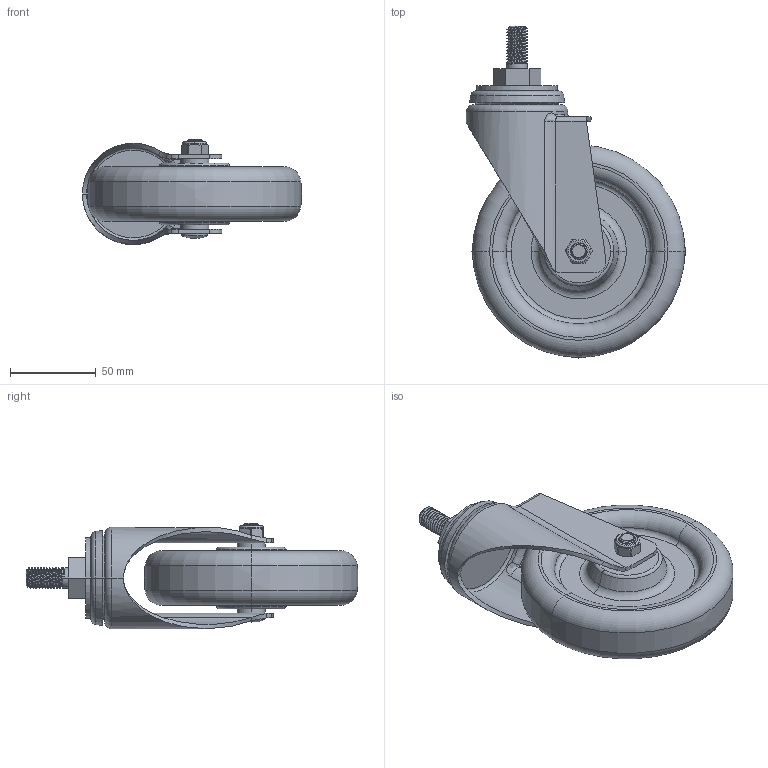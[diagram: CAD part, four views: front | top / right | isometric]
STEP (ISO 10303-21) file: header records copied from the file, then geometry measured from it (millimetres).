
FILE_DESCRIPTION((''),'2;1');
FILE_NAME('50135-505-86_ASM','2020-01-01T',('L'),(''),'PRO/ENGINEER BY PARAMETRIC TECHNOLOGY CORPORATION, 2010280','PRO/ENGINEER BY PARAMETRIC TECHNOLOGY CORPORATION, 2010280','');
FILE_SCHEMA(('CONFIG_CONTROL_DESIGN'));
Length unit declared in the file: millimetre
Products named in the file (5): 50135; 505-986; 570-33; 570-34; 50135-505-86_ASM
Assembly tree (4 placements, depth 2):
  50135-505-86_ASM
    50135
    505-986
    570-33
    570-34
Bounding box: 128.1 x 194.15 x 61.65 mm (x, y, z)
Volume: 361912.1 mm3; surface area: 75313.4 mm2
Topology: 4 solids, 4 shells, 241 faces, 577 edges, 355 vertices
Faces by surface type: cylinder 85, plane 52, bspline 42, torus 32, cone 28, sphere 2
Entity records: 14436 total; most frequent: CARTESIAN_POINT 9087, ORIENTED_EDGE 1150, DIRECTION 991, EDGE_CURVE 575, AXIS2_PLACEMENT_3D 399, VERTEX_POINT 355, EDGE_LOOP 260, FACE_OUTER_BOUND 241
